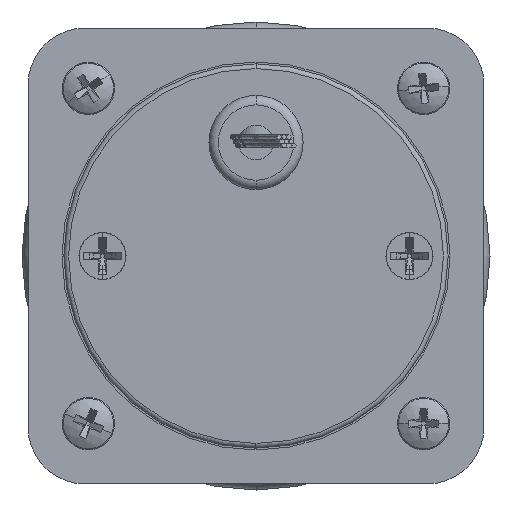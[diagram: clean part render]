
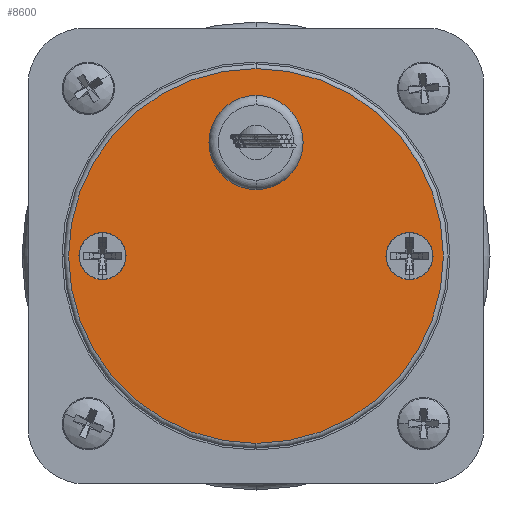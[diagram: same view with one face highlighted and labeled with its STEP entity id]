
A CAD part, front view. The second image highlights one B-rep face of the part: STEP entity #8600.
In plain terms, the highlighted planar face has unit normal (0, -1, 0).
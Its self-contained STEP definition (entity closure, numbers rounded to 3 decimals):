
#8482 = VERTEX_POINT ( 'NONE', #17451 ) ;
#8484 = EDGE_CURVE ( 'NONE', #8485, #8482, #17450, .T. ) ;
#8485 = VERTEX_POINT ( 'NONE', #17445 ) ;
#8547 = VERTEX_POINT ( 'NONE', #17564 ) ;
#8549 = EDGE_CURVE ( 'NONE', #8550, #8547, #17563, .T. ) ;
#8550 = VERTEX_POINT ( 'NONE', #17558 ) ;
#8559 = VERTEX_POINT ( 'NONE', #17603 ) ;
#8561 = EDGE_CURVE ( 'NONE', #8559, #8562, #17602, .T. ) ;
#8562 = VERTEX_POINT ( 'NONE', #17597 ) ;
#8571 = EDGE_CURVE ( 'NONE', #8572, #8573, #17647, .T. ) ;
#8572 = VERTEX_POINT ( 'NONE', #17642 ) ;
#8573 = VERTEX_POINT ( 'NONE', #17641 ) ;
#8597 = EDGE_CURVE ( 'NONE', #8573, #8572, #17665, .T. ) ;
#8600 = ADVANCED_FACE ( 'NONE', ( #17660, #17659, #17658, #17657 ), #17656, .F. ) ;
#8601 = EDGE_LOOP ( 'NONE', ( #8602, #8603 ) ) ;
#8602 = ORIENTED_EDGE ( 'NONE', *, *, #8549, .T. ) ;
#8603 = ORIENTED_EDGE ( 'NONE', *, *, #8604, .T. ) ;
#8604 = EDGE_CURVE ( 'NONE', #8547, #8550, #17716, .T. ) ;
#8605 = EDGE_LOOP ( 'NONE', ( #8606, #8607 ) ) ;
#8606 = ORIENTED_EDGE ( 'NONE', *, *, #8484, .T. ) ;
#8607 = ORIENTED_EDGE ( 'NONE', *, *, #8608, .T. ) ;
#8608 = EDGE_CURVE ( 'NONE', #8482, #8485, #17711, .T. ) ;
#8609 = EDGE_LOOP ( 'NONE', ( #8663, #8664 ) ) ;
#8619 = EDGE_CURVE ( 'NONE', #8562, #8559, #17689, .T. ) ;
#8663 = ORIENTED_EDGE ( 'NONE', *, *, #8619, .F. ) ;
#8664 = ORIENTED_EDGE ( 'NONE', *, *, #8561, .F. ) ;
#8665 = EDGE_LOOP ( 'NONE', ( #8666, #8667 ) ) ;
#8666 = ORIENTED_EDGE ( 'NONE', *, *, #8597, .T. ) ;
#8667 = ORIENTED_EDGE ( 'NONE', *, *, #8571, .T. ) ;
#17445 = CARTESIAN_POINT ( 'NONE',  ( -16.3, -9.93, -2.5 ) ) ;
#17446 = DIRECTION ( 'NONE',  ( 0., 0., 1. ) ) ;
#17447 = DIRECTION ( 'NONE',  ( 0., 1., 0. ) ) ;
#17448 = CARTESIAN_POINT ( 'NONE',  ( -16.3, -9.93, 0. ) ) ;
#17449 = AXIS2_PLACEMENT_3D ( 'NONE', #17448, #17447, #17446 ) ;
#17450 = CIRCLE ( 'NONE', #17449, 2.5 ) ;
#17451 = CARTESIAN_POINT ( 'NONE',  ( -16.3, -9.93, 2.5 ) ) ;
#17558 = CARTESIAN_POINT ( 'NONE',  ( 16.3, -9.93, -2.5 ) ) ;
#17559 = DIRECTION ( 'NONE',  ( 0., 0., 1. ) ) ;
#17560 = DIRECTION ( 'NONE',  ( 0., 1., 0. ) ) ;
#17561 = CARTESIAN_POINT ( 'NONE',  ( 16.3, -9.93, 0. ) ) ;
#17562 = AXIS2_PLACEMENT_3D ( 'NONE', #17561, #17560, #17559 ) ;
#17563 = CIRCLE ( 'NONE', #17562, 2.5 ) ;
#17564 = CARTESIAN_POINT ( 'NONE',  ( 16.3, -9.93, 2.5 ) ) ;
#17597 = CARTESIAN_POINT ( 'NONE',  ( 0., -9.93, -16.1 ) ) ;
#17598 = DIRECTION ( 'NONE',  ( 0., 0., -1. ) ) ;
#17599 = DIRECTION ( 'NONE',  ( 0., -1., 0. ) ) ;
#17600 = CARTESIAN_POINT ( 'NONE',  ( 0., -9.93, -12.05 ) ) ;
#17601 = AXIS2_PLACEMENT_3D ( 'NONE', #17600, #17599, #17598 ) ;
#17602 = CIRCLE ( 'NONE', #17601, 4.05 ) ;
#17603 = CARTESIAN_POINT ( 'NONE',  ( 0., -9.93, -8. ) ) ;
#17641 = CARTESIAN_POINT ( 'NONE',  ( 0., -9.93, 19.9 ) ) ;
#17642 = CARTESIAN_POINT ( 'NONE',  ( 0., -9.93, -19.9 ) ) ;
#17643 = DIRECTION ( 'NONE',  ( 0., 0., 1. ) ) ;
#17644 = DIRECTION ( 'NONE',  ( 0., -1., 0. ) ) ;
#17645 = CARTESIAN_POINT ( 'NONE',  ( 0., -9.93, 0. ) ) ;
#17646 = AXIS2_PLACEMENT_3D ( 'NONE', #17645, #17644, #17643 ) ;
#17647 = CIRCLE ( 'NONE', #17646, 19.9 ) ;
#17653 = DIRECTION ( 'NONE',  ( 0., 1., 0. ) ) ;
#17654 = CARTESIAN_POINT ( 'NONE',  ( 0., -9.93, 0. ) ) ;
#17655 = AXIS2_PLACEMENT_3D ( 'NONE', #17654, #17653, #17717 ) ;
#17656 = PLANE ( 'NONE',  #17655 ) ;
#17657 = FACE_OUTER_BOUND ( 'NONE', #8665, .T. ) ;
#17658 = FACE_BOUND ( 'NONE', #8609, .T. ) ;
#17659 = FACE_BOUND ( 'NONE', #8605, .T. ) ;
#17660 = FACE_BOUND ( 'NONE', #8601, .T. ) ;
#17661 = DIRECTION ( 'NONE',  ( 0., 0., 1. ) ) ;
#17662 = DIRECTION ( 'NONE',  ( 0., -1., 0. ) ) ;
#17663 = CARTESIAN_POINT ( 'NONE',  ( 0., -9.93, 0. ) ) ;
#17664 = AXIS2_PLACEMENT_3D ( 'NONE', #17663, #17662, #17661 ) ;
#17665 = CIRCLE ( 'NONE', #17664, 19.9 ) ;
#17687 = CARTESIAN_POINT ( 'NONE',  ( 0., -9.93, -12.05 ) ) ;
#17688 = AXIS2_PLACEMENT_3D ( 'NONE', #17687, #17749, #17748 ) ;
#17689 = CIRCLE ( 'NONE', #17688, 4.05 ) ;
#17707 = DIRECTION ( 'NONE',  ( 0., 0., 1. ) ) ;
#17708 = DIRECTION ( 'NONE',  ( 0., 1., 0. ) ) ;
#17709 = CARTESIAN_POINT ( 'NONE',  ( -16.3, -9.93, 0. ) ) ;
#17710 = AXIS2_PLACEMENT_3D ( 'NONE', #17709, #17708, #17707 ) ;
#17711 = CIRCLE ( 'NONE', #17710, 2.5 ) ;
#17712 = DIRECTION ( 'NONE',  ( 0., 0., 1. ) ) ;
#17713 = DIRECTION ( 'NONE',  ( 0., 1., 0. ) ) ;
#17714 = CARTESIAN_POINT ( 'NONE',  ( 16.3, -9.93, 0. ) ) ;
#17715 = AXIS2_PLACEMENT_3D ( 'NONE', #17714, #17713, #17712 ) ;
#17716 = CIRCLE ( 'NONE', #17715, 2.5 ) ;
#17717 = DIRECTION ( 'NONE',  ( 0., 0., 1. ) ) ;
#17748 = DIRECTION ( 'NONE',  ( 0., 0., -1. ) ) ;
#17749 = DIRECTION ( 'NONE',  ( 0., -1., 0. ) ) ;
